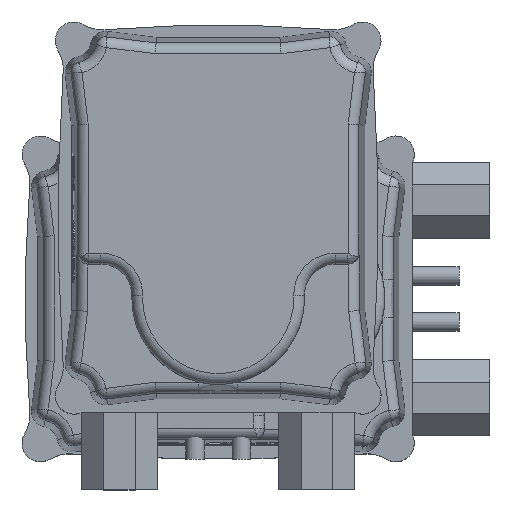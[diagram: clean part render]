
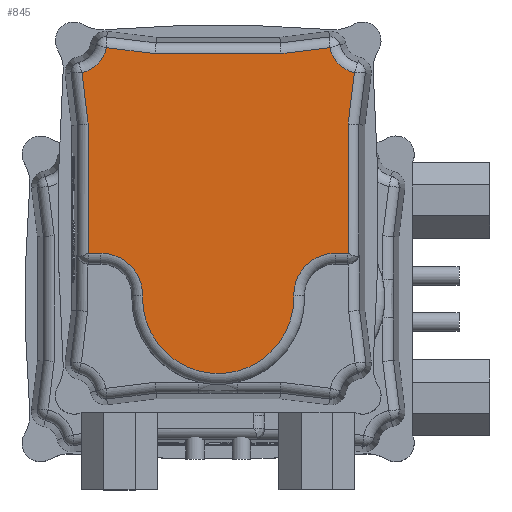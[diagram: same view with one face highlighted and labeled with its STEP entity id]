
A CAD part, top view. The second image highlights one B-rep face of the part: STEP entity #845.
In plain terms, the highlighted planar face has unit normal (0, 0, 1).
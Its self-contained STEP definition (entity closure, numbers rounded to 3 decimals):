
#845 = ADVANCED_FACE( '', ( #2132 ), #2133, .T. );
#2132 = FACE_OUTER_BOUND( '', #5293, .T. );
#2133 = PLANE( '', #5294 );
#5293 = EDGE_LOOP( '', ( #11737, #11738, #11739, #11740, #11741, #11742, #11743, #11744, #11745, #11746, #11747, #11748, #11749, #11750, #11751, #11752 ) );
#5294 = AXIS2_PLACEMENT_3D( '', #11753, #11754, #11755 );
#11737 = ORIENTED_EDGE( '', *, *, #16330, .T. );
#11738 = ORIENTED_EDGE( '', *, *, #16331, .T. );
#11739 = ORIENTED_EDGE( '', *, *, #16219, .T. );
#11740 = ORIENTED_EDGE( '', *, *, #16332, .T. );
#11741 = ORIENTED_EDGE( '', *, *, #16333, .T. );
#11742 = ORIENTED_EDGE( '', *, *, #16334, .T. );
#11743 = ORIENTED_EDGE( '', *, *, #16335, .T. );
#11744 = ORIENTED_EDGE( '', *, *, #15804, .T. );
#11745 = ORIENTED_EDGE( '', *, *, #16336, .T. );
#11746 = ORIENTED_EDGE( '', *, *, #15796, .T. );
#11747 = ORIENTED_EDGE( '', *, *, #16337, .T. );
#11748 = ORIENTED_EDGE( '', *, *, #16338, .T. );
#11749 = ORIENTED_EDGE( '', *, *, #16339, .T. );
#11750 = ORIENTED_EDGE( '', *, *, #16340, .T. );
#11751 = ORIENTED_EDGE( '', *, *, #16341, .T. );
#11752 = ORIENTED_EDGE( '', *, *, #16342, .T. );
#11753 = CARTESIAN_POINT( '', ( 47.227, -44.578, 84. ) );
#11754 = DIRECTION( '', ( 0., 0., 1. ) );
#11755 = DIRECTION( '', ( 1., 0., 0. ) );
#15796 = EDGE_CURVE( '', #17748, #17752, #17754, .F. );
#15804 = EDGE_CURVE( '', #17768, #17766, #17769, .F. );
#16219 = EDGE_CURVE( '', #18488, #17743, #18489, .F. );
#16330 = EDGE_CURVE( '', #18667, #18668, #18669, .T. );
#16331 = EDGE_CURVE( '', #18668, #18488, #18670, .T. );
#16332 = EDGE_CURVE( '', #17743, #18671, #18672, .T. );
#16333 = EDGE_CURVE( '', #18671, #18673, #18674, .T. );
#16334 = EDGE_CURVE( '', #18673, #18675, #18676, .T. );
#16335 = EDGE_CURVE( '', #18675, #17768, #18677, .T. );
#16336 = EDGE_CURVE( '', #17766, #17748, #18678, .T. );
#16337 = EDGE_CURVE( '', #17752, #18679, #18680, .T. );
#16338 = EDGE_CURVE( '', #18679, #18681, #18682, .T. );
#16339 = EDGE_CURVE( '', #18681, #18683, #18684, .T. );
#16340 = EDGE_CURVE( '', #18683, #18685, #18686, .T. );
#16341 = EDGE_CURVE( '', #18685, #18687, #18688, .F. );
#16342 = EDGE_CURVE( '', #18687, #18667, #18689, .T. );
#17743 = VERTEX_POINT( '', #20668 );
#17748 = VERTEX_POINT( '', #20713 );
#17752 = VERTEX_POINT( '', #20717 );
#17754 = CIRCLE( '', #20719, 13.5 );
#17766 = VERTEX_POINT( '', #20735 );
#17768 = VERTEX_POINT( '', #20737 );
#17769 = CIRCLE( '', #20738, 13.5 );
#18488 = VERTEX_POINT( '', #22762 );
#18489 = CIRCLE( '', #22763, 10.907 );
#18667 = VERTEX_POINT( '', #23228 );
#18668 = VERTEX_POINT( '', #23229 );
#18669 = LINE( '', #23230, #23231 );
#18670 = LINE( '', #23232, #23233 );
#18671 = VERTEX_POINT( '', #23234 );
#18672 = LINE( '', #23235, #23236 );
#18673 = VERTEX_POINT( '', #23237 );
#18674 = LINE( '', #23238, #23239 );
#18675 = VERTEX_POINT( '', #23240 );
#18676 = CIRCLE( '', #23241, 0.5 );
#18677 = LINE( '', #23242, #23243 );
#18678 = CIRCLE( '', #23244, 24.5 );
#18679 = VERTEX_POINT( '', #23245 );
#18680 = LINE( '', #23246, #23247 );
#18681 = VERTEX_POINT( '', #23248 );
#18682 = CIRCLE( '', #23249, 0.5 );
#18683 = VERTEX_POINT( '', #23250 );
#18684 = LINE( '', #23251, #23252 );
#18685 = VERTEX_POINT( '', #23253 );
#18686 = LINE( '', #23254, #23255 );
#18687 = VERTEX_POINT( '', #23256 );
#18688 = CIRCLE( '', #23257, 10.907 );
#18689 = LINE( '', #23258, #23259 );
#20668 = CARTESIAN_POINT( '', ( -46.913, -44.129, 84. ) );
#20713 = CARTESIAN_POINT( '', ( 25.355, 24.492, 84. ) );
#20717 = CARTESIAN_POINT( '', ( 11.5, 37.987, 84. ) );
#20719 = AXIS2_PLACEMENT_3D( '', #28203, #28204, #28205 );
#20735 = CARTESIAN_POINT( '', ( 25.355, -24.492, 84. ) );
#20737 = CARTESIAN_POINT( '', ( 11.5, -37.987, 84. ) );
#20738 = AXIS2_PLACEMENT_3D( '', #28212, #28213, #28214 );
#22762 = CARTESIAN_POINT( '', ( -55.033, -36.126, 84. ) );
#22763 = AXIS2_PLACEMENT_3D( '', #28558, #28559, #28560 );
#23228 = CARTESIAN_POINT( '', ( -53.093, 20.331, 84. ) );
#23229 = CARTESIAN_POINT( '', ( -53.093, -20.331, 84. ) );
#23230 = CARTESIAN_POINT( '', ( -53.093, -44.578, 84. ) );
#23231 = VECTOR( '', #28645, 1000. );
#23232 = CARTESIAN_POINT( '', ( -54.536, -32.083, 84. ) );
#23233 = VECTOR( '', #28646, 1000. );
#23234 = CARTESIAN_POINT( '', ( -30.331, -42.093, 84. ) );
#23235 = CARTESIAN_POINT( '', ( 45.775, -32.749, 84. ) );
#23236 = VECTOR( '', #28647, 1000. );
#23237 = CARTESIAN_POINT( '', ( 11.491, -42.093, 84. ) );
#23238 = CARTESIAN_POINT( '', ( 47.227, -42.093, 84. ) );
#23239 = VECTOR( '', #28648, 1000. );
#23240 = CARTESIAN_POINT( '', ( 11.5, -42., 84. ) );
#23241 = AXIS2_PLACEMENT_3D( '', #28649, #28650, #28651 );
#23242 = CARTESIAN_POINT( '', ( 11.5, -44.578, 84. ) );
#23243 = VECTOR( '', #28652, 1000. );
#23244 = AXIS2_PLACEMENT_3D( '', #28653, #28654, #28655 );
#23245 = CARTESIAN_POINT( '', ( 11.5, 42., 84. ) );
#23246 = CARTESIAN_POINT( '', ( 11.5, -44.578, 84. ) );
#23247 = VECTOR( '', #28656, 1000. );
#23248 = CARTESIAN_POINT( '', ( 11.491, 42.093, 84. ) );
#23249 = AXIS2_PLACEMENT_3D( '', #28657, #28658, #28659 );
#23250 = CARTESIAN_POINT( '', ( -30.331, 42.093, 84. ) );
#23251 = CARTESIAN_POINT( '', ( 47.227, 42.093, 84. ) );
#23252 = VECTOR( '', #28660, 1000. );
#23253 = CARTESIAN_POINT( '', ( -46.913, 44.129, 84. ) );
#23254 = CARTESIAN_POINT( '', ( 56.559, 31.425, 84. ) );
#23255 = VECTOR( '', #28661, 1000. );
#23256 = CARTESIAN_POINT( '', ( -55.033, 36.126, 84. ) );
#23257 = AXIS2_PLACEMENT_3D( '', #28662, #28663, #28664 );
#23258 = CARTESIAN_POINT( '', ( -43.752, -55.749, 84. ) );
#23259 = VECTOR( '', #28665, 1000. );
#28203 = CARTESIAN_POINT( '', ( 25., 37.987, 84. ) );
#28204 = DIRECTION( '', ( 0., 0., 1. ) );
#28205 = DIRECTION( '', ( 1., 0., 0. ) );
#28212 = CARTESIAN_POINT( '', ( 25., -37.987, 84. ) );
#28213 = DIRECTION( '', ( 0., 0., 1. ) );
#28214 = DIRECTION( '', ( 1., 0., 0. ) );
#28558 = CARTESIAN_POINT( '', ( -57.5, -46.75, 84. ) );
#28559 = DIRECTION( '', ( 0., 0., 1. ) );
#28560 = DIRECTION( '', ( 1., 0., 0. ) );
#28645 = DIRECTION( '', ( 0., -1., 0. ) );
#28646 = DIRECTION( '', ( -0.122, -0.993, 0. ) );
#28647 = DIRECTION( '', ( 0.993, 0.122, 0. ) );
#28648 = DIRECTION( '', ( 1., 0., 0. ) );
#28649 = CARTESIAN_POINT( '', ( 11., -42., 84. ) );
#28650 = DIRECTION( '', ( 0., 0., 1. ) );
#28651 = DIRECTION( '', ( 1., 0., 0. ) );
#28652 = DIRECTION( '', ( 0., 1., 0. ) );
#28653 = CARTESIAN_POINT( '', ( 26., 0., 84. ) );
#28654 = DIRECTION( '', ( 0., 0., 1. ) );
#28655 = DIRECTION( '', ( 1., 0., 0. ) );
#28656 = DIRECTION( '', ( 0., 1., 0. ) );
#28657 = CARTESIAN_POINT( '', ( 11., 42., 84. ) );
#28658 = DIRECTION( '', ( 0., 0., 1. ) );
#28659 = DIRECTION( '', ( 1., 0., 0. ) );
#28660 = DIRECTION( '', ( -1., 0., 0. ) );
#28661 = DIRECTION( '', ( -0.993, 0.122, 0. ) );
#28662 = CARTESIAN_POINT( '', ( -57.5, 46.75, 84. ) );
#28663 = DIRECTION( '', ( 0., 0., 1. ) );
#28664 = DIRECTION( '', ( 1., 0., 0. ) );
#28665 = DIRECTION( '', ( 0.122, -0.993, 0. ) );
